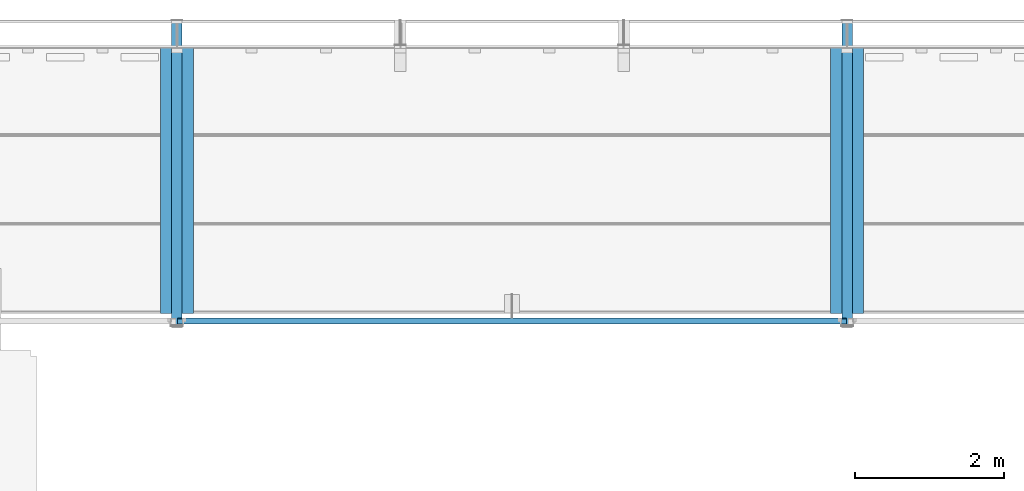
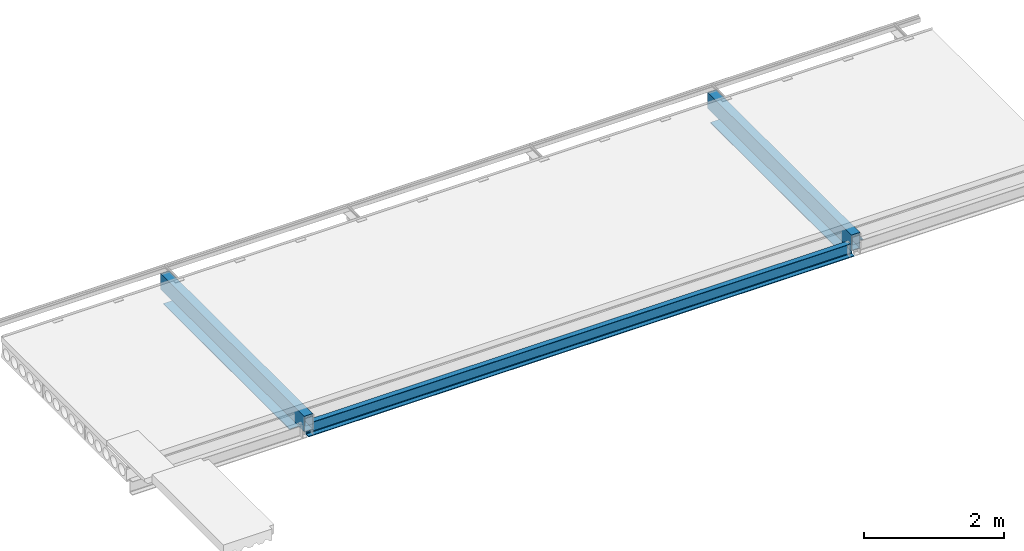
# One storey, part 1 of 8: 3 beams.
"""IFC2X3 building model written with IfcOpenShell, lengths in millimetres."""

from ifc_helpers import new_model, entity, si_unit, converted_unit, derived_unit, direction, frame, origin_with_axes, origin_2d_with_axis, place, context, subcontext, project, spatial, polyline, u_section, outline, extrude, boolean, halfspace, material, type_object, element, save


model = new_model("IFC2X3")

# Units and contexts
model_context = context("Model", 3, precision=0.01, world=frame((0.0, 4.29681676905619e-09, 0.0)), true_north=direction((4.01073788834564e-13, 1.0)))
plan_context = context("Plan", 3, precision=0.01, world=frame((0.0, 4.29681676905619e-09, 0.0)), true_north=direction((4.01073788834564e-13, 1.0)))
body_context = subcontext(model_context, "Body", "Model", "MODEL_VIEW")
ifc_project = project(units=[converted_unit("PLANEANGLEUNIT", "DEGREE", entity("IfcPositiveLengthMeasure", 0.0174532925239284), si_unit("PLANEANGLEUNIT", "RADIAN"), dimensions=[0, 0, 0, 0, 0, 0, 0]), si_unit("AREAUNIT", "SQUARE_METRE"), si_unit("LENGTHUNIT", "METRE", prefix="MILLI"), si_unit("MASSUNIT", "GRAM", prefix="KILO"), si_unit("POWERUNIT", "WATT"), si_unit("PRESSUREUNIT", "PASCAL"), si_unit("FORCEUNIT", "NEWTON", prefix="KILO"), si_unit("ELECTRICVOLTAGEUNIT", "VOLT"), si_unit("ELECTRICCURRENTUNIT", "AMPERE"), si_unit("THERMODYNAMICTEMPERATUREUNIT", "DEGREE_CELSIUS"), si_unit("TIMEUNIT", "SECOND"), si_unit("VOLUMEUNIT", "CUBIC_METRE"), derived_unit("LINEARVELOCITYUNIT", [(si_unit("LENGTHUNIT", "METRE"), 1), (si_unit("TIMEUNIT", "SECOND"), -1)]), derived_unit("VOLUMETRICFLOWRATEUNIT", [(si_unit("VOLUMEUNIT", "CUBIC_METRE"), 1), (si_unit("TIMEUNIT", "SECOND"), -1)]), derived_unit("THERMALTRANSMITTANCEUNIT", [(si_unit("POWERUNIT", "WATT"), 1), (si_unit("THERMODYNAMICTEMPERATUREUNIT", "KELVIN"), -1), (si_unit("AREAUNIT", "SQUARE_METRE"), -1)]), derived_unit("SOUNDPRESSUREUNIT", [(si_unit("PRESSUREUNIT", "PASCAL"), 1)])], contexts=[model_context, plan_context])

# Site, building, storey
site_placement = place(None, frame((0.0, -4.29681676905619e-09, 0.0), z_axis=(0.0, 0.0, 1.0), x_axis=(1.0, 0.0, 0.0)))
site = spatial("IfcSite", under=ifc_project, at=site_placement, Name="Gardermoen", CompositionType="ELEMENT")
building_placement = place(site_placement, frame((0.0, 4.29681676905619e-09, 0.0), z_axis=(0.0, 0.0, 1.0), x_axis=(1.0, 0.0, 0.0)))
building = spatial("IfcBuilding", under=site, at=building_placement, Name="TH", CompositionType="ELEMENT")
storey_placement = place(building_placement, origin_with_axes())
storey = spatial("IfcBuildingStorey", under=building, at=storey_placement, Name="G", CompositionType="ELEMENT", Elevation=0.0)

# Beams
ifc_material = material(Name="STEEL/S355")
beam_type_1 = type_object("IfcBeamType", Name="HQ265*5-40*130-12*440", PredefinedType="NOTDEFINED")
beam_1_placement = place(storey_placement, frame((906999.999766, 480709.000026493, 213421.5), z_axis=(0.0, 0.0, 1.0), x_axis=(0.0, 1.0, 0.0)))
element("IfcBeam", 1, at=beam_1_placement, inside=storey, type_object=beam_type_1, material=ifc_material, Name="STÅLBJELKE", ObjectType="HQ265*5-40*130-12*440", context=body_context, shape_type="CSG", body=[
    boolean("DIFFERENCE", boolean("DIFFERENCE", boolean("DIFFERENCE", boolean("DIFFERENCE", boolean("DIFFERENCE", boolean("DIFFERENCE", extrude(outline(polyline([(220.0, -138.5), (-220.0, -138.5), (-220.0, -126.5), (-70.0, -126.5), (-70.0, 138.5), (70.0, 138.5), (70.0, -126.5), (220.0, -126.5), (220.0, -138.5)]), holes=[polyline([(65.0, -126.5), (65.0, 98.5), (-65.0, 98.5), (-65.0, -126.5), (65.0, -126.5)])]), frame((4106.00013202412, 0.0, -2.91038304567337e-11), z_axis=(-1.0, 0.0, 6.61744490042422e-24), x_axis=(0.0, -1.0, 0.0)), (0.0, 0.0, 1.0), 4096.0), extrude(outline(polyline([(0.0, 0.0), (334.999969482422, 0.0), (334.999969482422, 150.000030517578), (-3.19498940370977e-05, 150.000030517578), (0.0, 0.0)])), frame((3771.00006722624, -69.999168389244, -126.500000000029), z_axis=(-3.99999553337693e-08, 0.0, -0.999999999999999), x_axis=(1.0, 0.0, 0.0)), (0.0, 0.0, 1.0), 15.0)), extrude(outline(polyline([(0.0, 0.0), (334.999969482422, 0.0), (334.999969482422, 150.000030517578), (-3.19498940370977e-05, 150.000030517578), (0.0, 0.0)])), frame((3771.00000545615, 220.000801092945, -126.500000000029), z_axis=(-3.99999553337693e-08, 0.0, -0.999999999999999), x_axis=(1.0, 0.0, 0.0)), (0.0, 0.0, 1.0), 15.0)), extrude(outline(polyline([(0.0, 0.0), (161.0, 0.0), (161.0, 150.000030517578), (-3.19498940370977e-05, 150.000030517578), (0.0, 0.0)])), frame((10.0000617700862, -69.999969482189, -126.500000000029), z_axis=(-3.99999553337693e-08, 0.0, -0.999999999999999), x_axis=(1.0, 0.0, 0.0)), (0.0, 0.0, 1.0), 15.0)), extrude(outline(polyline([(0.0, 0.0), (161.0, 0.0), (161.0, 150.000030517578), (-3.19498940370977e-05, 150.000030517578), (0.0, 0.0)])), frame((10.0, 220.000000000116, -126.500000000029), z_axis=(-3.99999553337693e-08, 0.0, -0.999999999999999), x_axis=(1.0, 0.0, 0.0)), (0.0, 0.0, 1.0), 15.0)), halfspace(frame((4105.99997350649, -3.49245965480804e-10, -138.500000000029), z_axis=(-1.0, 0.0, 6.61744490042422e-24), x_axis=(0.0, 1.0, 0.0)), True)), halfspace(frame((10.0, 3.49245965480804e-10, -130.000000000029), z_axis=(1.0, 0.0, 0.0), x_axis=(0.0, -1.0, 0.0)), True)),
])
beam_2_placement = place(storey_placement, frame((897999.999766, 480709.000026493, 213421.5), z_axis=(0.0, 0.0, 1.0), x_axis=(0.0, 1.0, 0.0)))
element("IfcBeam", 2, at=beam_2_placement, inside=storey, type_object=beam_type_1, material=ifc_material, Name="STÅLBJELKE", ObjectType="HQ265*5-40*130-12*440", context=body_context, shape_type="CSG", body=[
    boolean("DIFFERENCE", boolean("DIFFERENCE", boolean("DIFFERENCE", boolean("DIFFERENCE", boolean("DIFFERENCE", boolean("DIFFERENCE", extrude(outline(polyline([(220.0, -138.5), (-220.0, -138.5), (-220.0, -126.5), (-70.0, -126.5), (-70.0, 138.5), (70.0, 138.5), (70.0, -126.5), (220.0, -126.5), (220.0, -138.5)]), holes=[polyline([(65.0, -126.5), (65.0, 98.5), (-65.0, 98.5), (-65.0, -126.5), (65.0, -126.5)])]), frame((4106.00013202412, 0.0, -2.91038304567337e-11), z_axis=(-1.0, 0.0, 6.61744490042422e-24), x_axis=(0.0, -1.0, 0.0)), (0.0, 0.0, 1.0), 4096.0), extrude(outline(polyline([(0.0, 0.0), (334.999969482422, 0.0), (334.999969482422, 150.000030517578), (-3.19498940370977e-05, 150.000030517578), (0.0, 0.0)])), frame((3771.00006722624, -69.999168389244, -126.500000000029), z_axis=(-3.99999553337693e-08, 0.0, -0.999999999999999), x_axis=(1.0, 0.0, 0.0)), (0.0, 0.0, 1.0), 15.0)), extrude(outline(polyline([(0.0, 0.0), (334.999969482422, 0.0), (334.999969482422, 150.000030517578), (-3.19498940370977e-05, 150.000030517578), (0.0, 0.0)])), frame((3771.00000545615, 220.000801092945, -126.500000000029), z_axis=(-3.99999553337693e-08, 0.0, -0.999999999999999), x_axis=(1.0, 0.0, 0.0)), (0.0, 0.0, 1.0), 15.0)), extrude(outline(polyline([(0.0, 0.0), (161.0, 0.0), (161.0, 150.000030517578), (-3.19498940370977e-05, 150.000030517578), (0.0, 0.0)])), frame((10.0000617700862, -69.999969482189, -126.500000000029), z_axis=(-3.99999553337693e-08, 0.0, -0.999999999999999), x_axis=(1.0, 0.0, 0.0)), (0.0, 0.0, 1.0), 15.0)), extrude(outline(polyline([(0.0, 0.0), (161.0, 0.0), (161.0, 150.000030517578), (-3.19498940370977e-05, 150.000030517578), (0.0, 0.0)])), frame((10.0, 220.000000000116, -126.500000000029), z_axis=(-3.99999553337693e-08, 0.0, -0.999999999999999), x_axis=(1.0, 0.0, 0.0)), (0.0, 0.0, 1.0), 15.0)), halfspace(frame((4105.99997350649, -3.49245965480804e-10, -138.500000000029), z_axis=(-1.0, 0.0, 6.61744490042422e-24), x_axis=(0.0, 1.0, 0.0)), True)), halfspace(frame((10.0, 3.49245965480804e-10, -130.000000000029), z_axis=(1.0, 0.0, 0.0), x_axis=(0.0, -1.0, 0.0)), True)),
])
beam_type_2 = type_object("IfcBeamType", Name="UNP240", PredefinedType="NOTDEFINED")
beam_3_placement = place(storey_placement, frame((906989.999766, 480777.504375, 213280.0), z_axis=(-6.61744490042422e-24, 0.0, -1.0), x_axis=(-1.0, 0.0, 6.61744490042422e-24)))
element("IfcBeam", 3, at=beam_3_placement, inside=storey, type_object=beam_type_2, material=ifc_material, Name="STÅLBJELKE", ObjectType="UNP240", context=body_context, shape_type="CSG", body=[
    boolean("DIFFERENCE", boolean("DIFFERENCE", extrude(u_section(Depth=240.0, FlangeWidth=85.0, WebThickness=9.5, FlangeThickness=13.0, FilletRadius=13.0, EdgeRadius=6.5, FlangeSlope=4.5739212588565, at=origin_2d_with_axis()), frame((8980.0, 0.0, 0.0), z_axis=(-1.0, 0.0, 6.61744490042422e-24), x_axis=(0.0, -1.0, 0.0)), (0.0, 0.0, 1.0), 8980.0), extrude(outline(polyline([(0.0, 0.0), (117.0, 0.0), (117.0, 70.0), (1.418316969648e-05, 70.0), (0.0, 0.0)])), frame((8980.0, 45.0, -120.0), z_axis=(0.0, -1.0, 0.0), x_axis=(0.0, 0.0, 1.0)), (0.0, 0.0, 1.0), 90.0)), extrude(outline(polyline([(0.0, 0.0), (70.0, 0.0), (70.0, 117.0), (0.0, 117.0), (0.0, 0.0)])), frame((0.0, 45.0, -120.0), z_axis=(0.0, -1.0, 0.0), x_axis=(1.0, 0.0, 0.0)), (0.0, 0.0, 1.0), 90.0)),
])

save(model, "model.ifc")
